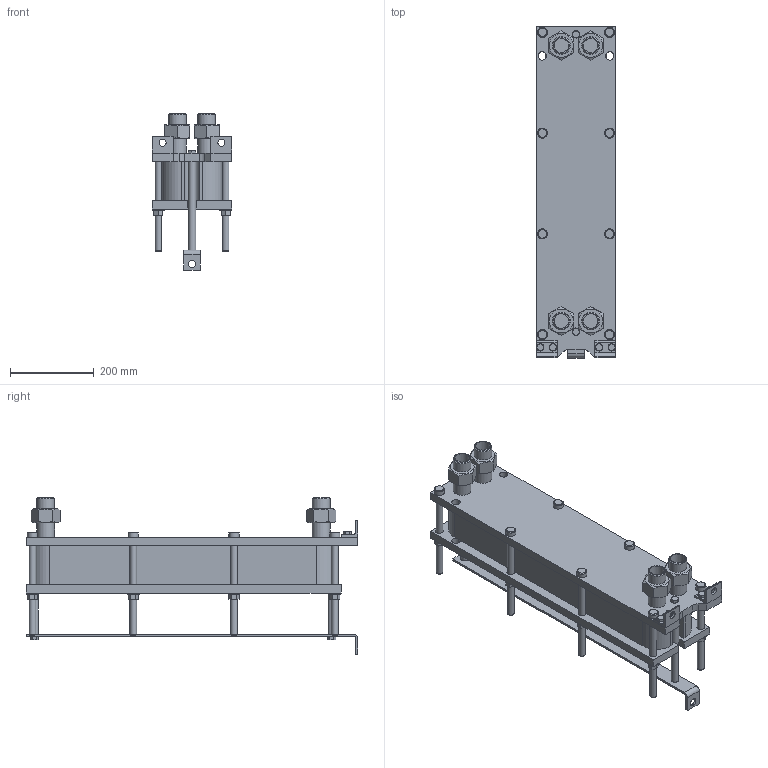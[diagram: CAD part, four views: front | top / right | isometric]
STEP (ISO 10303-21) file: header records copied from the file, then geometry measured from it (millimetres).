
FILE_DESCRIPTION(/* description */ (''),/* implementation_level */ '2;1');
FILE_NAME(/* name */ 'C:\Users\zhuro\Desktop\ENCO\TO\ЭН-008\ЭН-0,5-008-30-1.stp',/* time_stamp */ '2022-06-06T10:47:17+03:00',/* author */ ('zhuro'),/* organization */ (''),/* preprocessor_version */ 'ST-DEVELOPER v18.1',/* originating_system */ 'Autodesk Inventor 2022',/* authorisation */ '');
FILE_SCHEMA (('AUTOMOTIVE_DESIGN { 1 0 10303 214 3 1 1 }'));
Length unit declared in the file: millimetre
Products named in the file (1): ЭН-0,5-008-30-1
Bounding box: 190 x 790 x 373 mm (x, y, z)
Volume: 16155997.9 mm3; surface area: 1429406.7 mm2
Topology: 40 solids, 40 shells, 428 faces, 924 edges, 606 vertices
Faces by surface type: plane 273, cylinder 109, cone 40, torus 6
Full cylindrical faces by diameter (mm): 12 x6, 14 x2, 16 x20, 17 x8, 18 x19, 20 x5, 24 x8, 28 x8, 34.3 x8, 42.3 x8
Entity records: 15843 total; most frequent: CARTESIAN_POINT 5991, DIRECTION 1984, ORIENTED_EDGE 1848, EDGE_CURVE 924, AXIS2_PLACEMENT_3D 715, VERTEX_POINT 606, LINE 554, VECTOR 554
